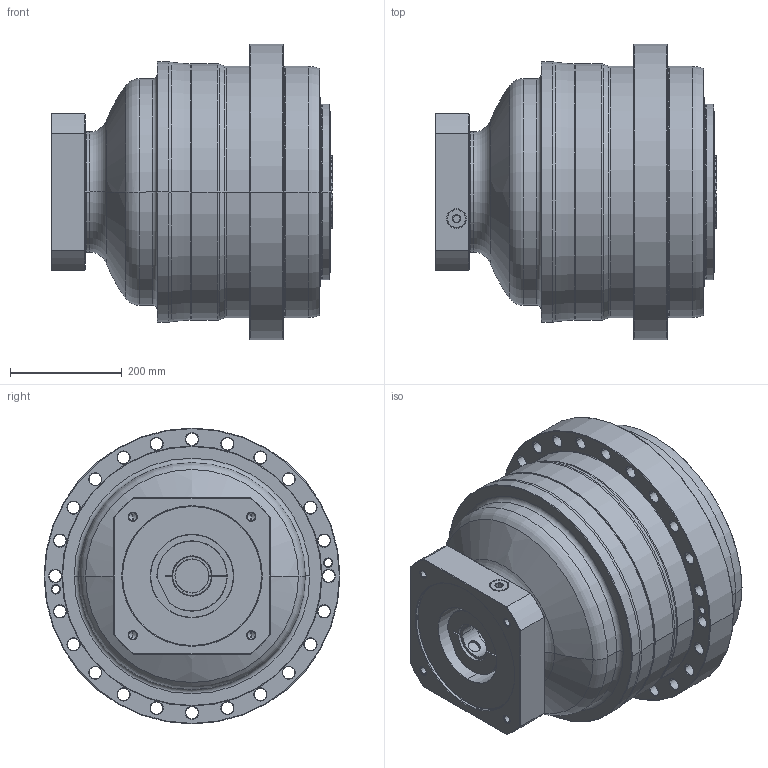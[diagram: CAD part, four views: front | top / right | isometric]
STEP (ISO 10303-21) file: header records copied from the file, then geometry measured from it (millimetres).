
FILE_DESCRIPTION((''),'2;1');
FILE_NAME('APC450_2ST_60-P0409D50201_ASM','2018-06-29T',('d01226'),(''),'PRO/ENGINEER BY PARAMETRIC TECHNOLOGY CORPORATION, 2008410','PRO/ENGINEER BY PARAMETRIC TECHNOLOGY CORPORATION, 2008410','');
FILE_SCHEMA(('CONFIG_CONTROL_DESIGN'));
Length unit declared in the file: millimetre
Products named in the file (9): P0276201003; P03572B0103; P1339210301; P0503D00016; P0962205001; P1222200001; P0409D50201; 21711426021; APC450_2ST_60-P0409D50201_ASM
Assembly tree (8 placements, depth 2):
  APC450_2ST_60-P0409D50201_ASM
    P0276201003
    P03572B0103
    P1339210301
    P0503D00016
    P0962205001
    P1222200001
    P0409D50201
    21711426021
Bounding box: 505.1 x 530 x 530 mm (x, y, z)
Volume: 74222747.5 mm3; surface area: 2222386.3 mm2
Topology: 9 solids, 34 shells, 1009 faces, 2487 edges, 1517 vertices
Faces by surface type: cone 340, cylinder 304, plane 185, torus 166, bspline 14
Entity records: 36192 total; most frequent: CARTESIAN_POINT 11983, DIRECTION 5431, ORIENTED_EDGE 4776, EDGE_CURVE 2437, AXIS2_PLACEMENT_3D 2365, VERTEX_POINT 1517, CIRCLE 1341, EDGE_LOOP 1146
